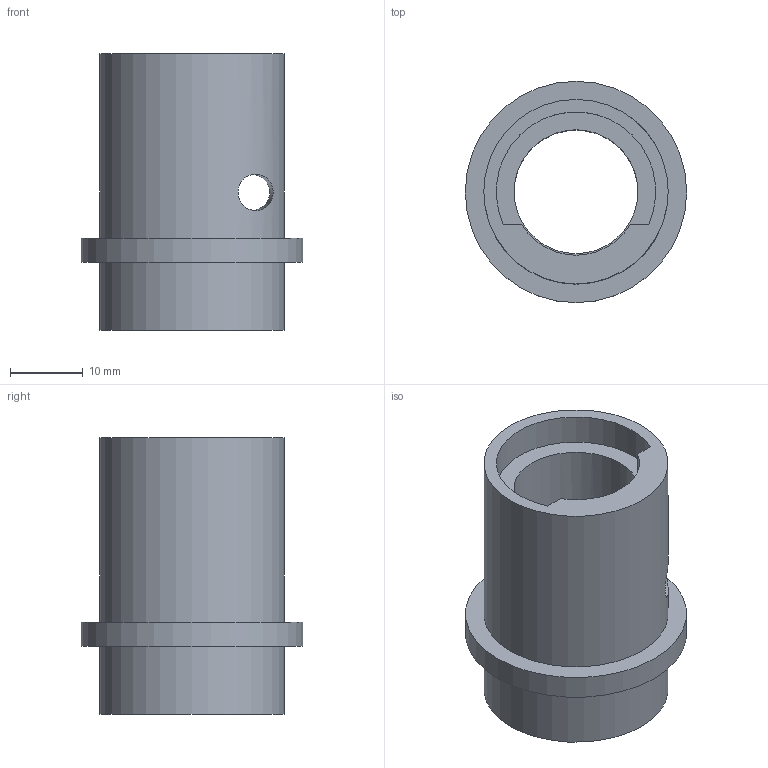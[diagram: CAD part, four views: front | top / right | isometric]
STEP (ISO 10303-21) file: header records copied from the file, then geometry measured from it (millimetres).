
FILE_DESCRIPTION(/* description */ (''),/* implementation_level */ '2;1');
FILE_NAME(/* name */ 'PCC 1.0/STEP/Tooling/PPS43 Barrel Adapter.step',/* time_stamp */ '2022-04-13T23:41:20-04:00',/* author */ (''),/* organization */ (''),/* preprocessor_version */ 'ST-DEVELOPER v18.1',/* originating_system */ 'Autodesk Translation Framework v10.14.0.1471',/* authorisation */ '');
FILE_SCHEMA (('AUTOMOTIVE_DESIGN { 1 0 10303 214 3 1 1 }'));
Length unit declared in the file: millimetre
Products named in the file (1): PikeArms
Bounding box: 30.48 x 30.48 x 38.1 mm (x, y, z)
Volume: 10629.8 mm3; surface area: 6290.6 mm2
Topology: 1 solids, 1 shells, 14 faces, 33 edges, 23 vertices
Faces by surface type: cylinder 7, plane 7
Full cylindrical faces by diameter (mm): 5 x1, 17.05 x1, 25.4 x2, 30.48 x1
Entity records: 575 total; most frequent: CARTESIAN_POINT 202, DIRECTION 68, ORIENTED_EDGE 66, EDGE_CURVE 33, AXIS2_PLACEMENT_3D 27, VERTEX_POINT 23, EDGE_LOOP 22, FACE_OUTER_BOUND 14
